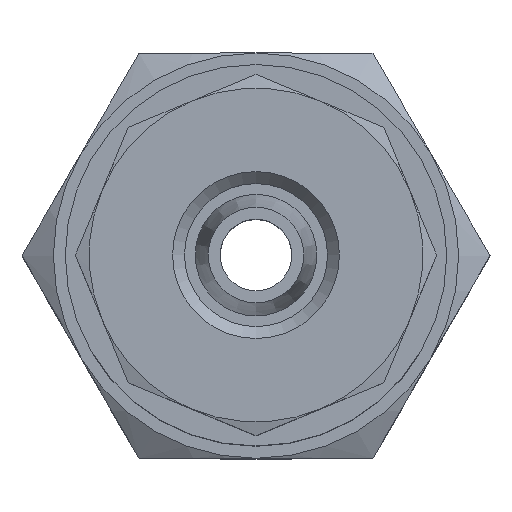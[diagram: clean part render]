
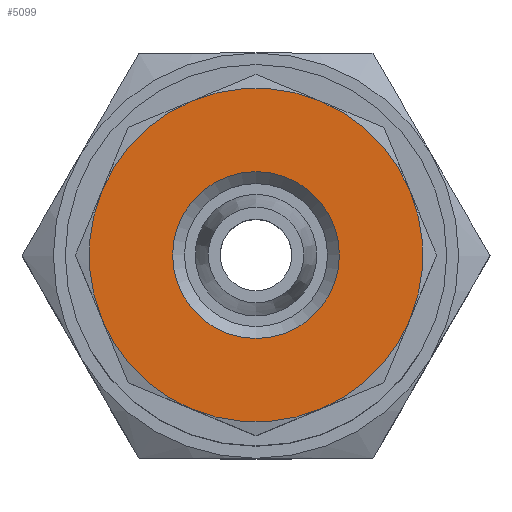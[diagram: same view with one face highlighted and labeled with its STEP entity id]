
A CAD part, top view. The second image highlights one B-rep face of the part: STEP entity #5099.
In plain terms, the highlighted planar face has unit normal (0, 0, 1) as drawn and (0, 1, 0) by its records, which use the part's own axes.
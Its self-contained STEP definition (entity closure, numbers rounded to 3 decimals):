
#2722=ORIENTED_EDGE('',*,*,#3201,.F.);
#2723=ORIENTED_EDGE('',*,*,#3202,.F.);
#2724=ORIENTED_EDGE('',*,*,#3203,.F.);
#2725=ORIENTED_EDGE('',*,*,#3204,.F.);
#2726=ORIENTED_EDGE('',*,*,#3205,.F.);
#2727=ORIENTED_EDGE('',*,*,#3206,.F.);
#2728=ORIENTED_EDGE('',*,*,#3207,.F.);
#2729=ORIENTED_EDGE('',*,*,#3208,.F.);
#2730=ORIENTED_EDGE('',*,*,#3200,.T.);
#2884=CIRCLE('',#4907,3.5);
#2885=CIRCLE('',#4909,7.);
#2886=CIRCLE('',#4910,7.);
#2887=CIRCLE('',#4911,7.);
#2888=CIRCLE('',#4912,7.);
#2889=CIRCLE('',#4913,7.);
#2890=CIRCLE('',#4914,7.);
#2891=CIRCLE('',#4915,7.);
#2892=CIRCLE('',#4916,7.);
#3008=VERTEX_POINT('',#4571);
#3009=VERTEX_POINT('',#4574);
#3010=VERTEX_POINT('',#4575);
#3011=VERTEX_POINT('',#4577);
#3012=VERTEX_POINT('',#4579);
#3013=VERTEX_POINT('',#4581);
#3014=VERTEX_POINT('',#4583);
#3015=VERTEX_POINT('',#4585);
#3016=VERTEX_POINT('',#4587);
#3200=EDGE_CURVE('',#3008,#3008,#2884,.T.);
#3201=EDGE_CURVE('',#3009,#3010,#2885,.T.);
#3202=EDGE_CURVE('',#3011,#3009,#2886,.T.);
#3203=EDGE_CURVE('',#3012,#3011,#2887,.T.);
#3204=EDGE_CURVE('',#3013,#3012,#2888,.T.);
#3205=EDGE_CURVE('',#3014,#3013,#2889,.T.);
#3206=EDGE_CURVE('',#3015,#3014,#2890,.T.);
#3207=EDGE_CURVE('',#3016,#3015,#2891,.T.);
#3208=EDGE_CURVE('',#3010,#3016,#2892,.T.);
#3380=EDGE_LOOP('',(#2722,#2723,#2724,#2725,#2726,#2727,#2728,#2729));
#3381=EDGE_LOOP('',(#2730));
#3544=FACE_BOUND('',#3380,.T.);
#3545=FACE_BOUND('',#3381,.T.);
#4072=DIRECTION('',(0.,-1.,0.));
#4073=DIRECTION('',(0.,0.,-3.5));
#4074=DIRECTION('',(0.,1.,0.));
#4075=DIRECTION('',(1.,0.,0.));
#4076=DIRECTION('',(0.,-1.,0.));
#4077=DIRECTION('',(0.,0.,7.));
#4078=DIRECTION('',(0.,-1.,0.));
#4079=DIRECTION('',(0.,0.,7.));
#4080=DIRECTION('',(0.,-1.,0.));
#4081=DIRECTION('',(0.,0.,7.));
#4082=DIRECTION('',(0.,-1.,0.));
#4083=DIRECTION('',(0.,0.,7.));
#4084=DIRECTION('',(0.,-1.,0.));
#4085=DIRECTION('',(0.,0.,7.));
#4086=DIRECTION('',(0.,-1.,0.));
#4087=DIRECTION('',(0.,0.,7.));
#4088=DIRECTION('',(0.,-1.,0.));
#4089=DIRECTION('',(0.,0.,7.));
#4090=DIRECTION('',(0.,-1.,0.));
#4091=DIRECTION('',(0.,0.,7.));
#4571=CARTESIAN_POINT('',(26.989,28.095,-3.5));
#4572=CARTESIAN_POINT('',(26.989,28.095,0.));
#4573=CARTESIAN_POINT('',(29.668,28.095,6.467));
#4574=CARTESIAN_POINT('',(20.522,28.095,-2.679));
#4575=CARTESIAN_POINT('',(24.31,28.095,-6.467));
#4576=CARTESIAN_POINT('',(26.989,28.095,0.));
#4577=CARTESIAN_POINT('',(20.522,28.095,2.679));
#4578=CARTESIAN_POINT('',(26.989,28.095,0.));
#4579=CARTESIAN_POINT('',(24.31,28.095,6.467));
#4580=CARTESIAN_POINT('',(26.989,28.095,0.));
#4581=CARTESIAN_POINT('',(29.668,28.095,6.467));
#4582=CARTESIAN_POINT('',(26.989,28.095,0.));
#4583=CARTESIAN_POINT('',(33.456,28.095,2.679));
#4584=CARTESIAN_POINT('',(26.989,28.095,0.));
#4585=CARTESIAN_POINT('',(33.456,28.095,-2.679));
#4586=CARTESIAN_POINT('',(26.989,28.095,0.));
#4587=CARTESIAN_POINT('',(29.668,28.095,-6.467));
#4588=CARTESIAN_POINT('',(26.989,28.095,0.));
#4589=CARTESIAN_POINT('',(26.989,28.095,0.));
#4907=AXIS2_PLACEMENT_3D('',#4572,#4072,#4073);
#4908=AXIS2_PLACEMENT_3D('',#4573,#4074,#4075);
#4909=AXIS2_PLACEMENT_3D('',#4576,#4076,#4077);
#4910=AXIS2_PLACEMENT_3D('',#4578,#4078,#4079);
#4911=AXIS2_PLACEMENT_3D('',#4580,#4080,#4081);
#4912=AXIS2_PLACEMENT_3D('',#4582,#4082,#4083);
#4913=AXIS2_PLACEMENT_3D('',#4584,#4084,#4085);
#4914=AXIS2_PLACEMENT_3D('',#4586,#4086,#4087);
#4915=AXIS2_PLACEMENT_3D('',#4588,#4088,#4089);
#4916=AXIS2_PLACEMENT_3D('',#4589,#4090,#4091);
#4995=PLANE('',#4908);
#5099=ADVANCED_FACE('',(#3544,#3545),#4995,.T.);
